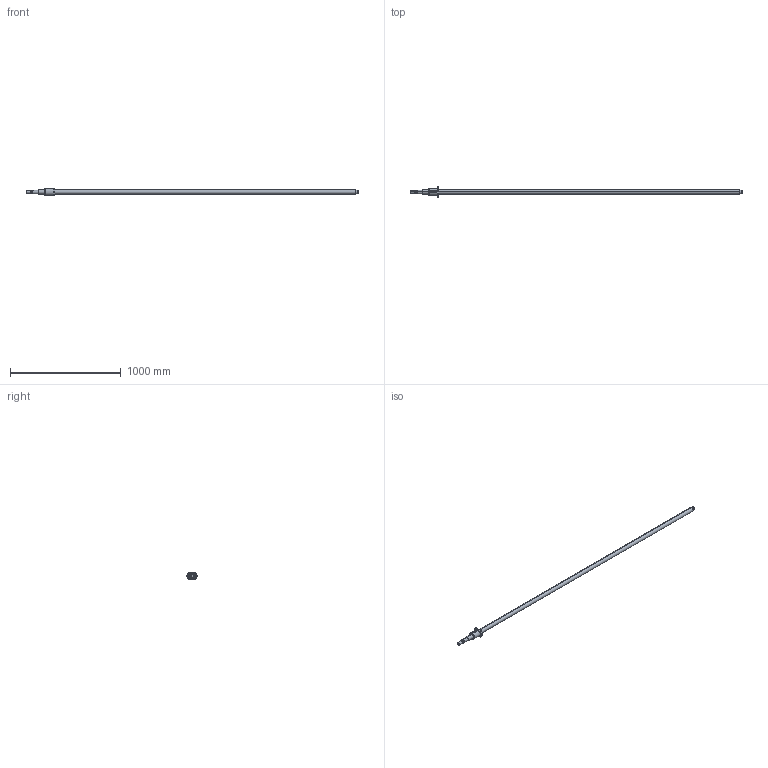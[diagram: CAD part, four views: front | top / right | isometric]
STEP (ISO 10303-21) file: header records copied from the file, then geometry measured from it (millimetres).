
FILE_DESCRIPTION (( 'STEP AP214' ), '1' );
FILE_NAME ('7.3016 STNUR4010-DFC7-3000mm.STEP', '2026-03-04T08:37:46', ( '' ), ( '' ), 'SwSTEP 2.0', 'SolidWorks 2025', '' );
FILE_SCHEMA (( 'AUTOMOTIVE_DESIGN' ));
Length unit declared in the file: millimetre
Products named in the file (3): 7.3111 STNUR4010T4D; 7.3016 STNUR4010-DFC7-3000mm; 7.3041 TCR4010-FC7
Assembly tree (2 placements, depth 2):
  7.3016 STNUR4010-DFC7-3000mm
    7.3041 TCR4010-FC7
    7.3111 STNUR4010T4D
Bounding box: 3000 x 93 x 70 mm (x, y, z)
Volume: 3883769.7 mm3; surface area: 418258.5 mm2
Topology: 2 solids, 2 shells, 645 faces, 1816 edges, 1205 vertices
Faces by surface type: bspline 428, cylinder 106, plane 98, cone 13
Entity records: 36001 total; most frequent: CARTESIAN_POINT 22361, ORIENTED_EDGE 3632, EDGE_CURVE 1816, DIRECTION 1394, VERTEX_POINT 1205, B_SPLINE_CURVE_WITH_KNOTS 894, VECTOR 748, LINE 748
